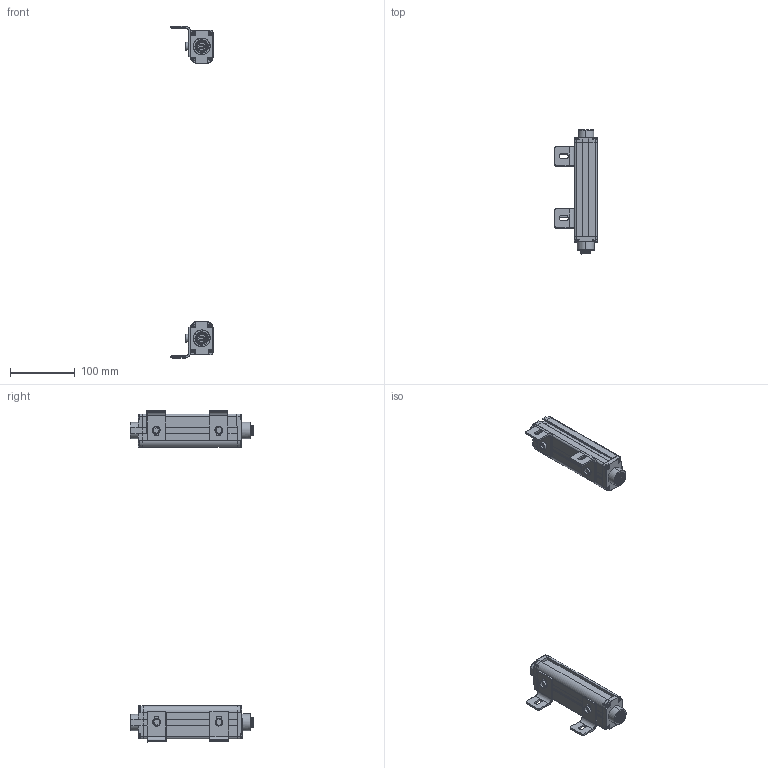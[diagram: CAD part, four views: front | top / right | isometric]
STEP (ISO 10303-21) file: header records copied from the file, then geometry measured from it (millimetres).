
FILE_DESCRIPTION (( 'STEP AP214' ), '1' );
FILE_NAME ('esn1210.STEP', '2018-03-08T12:41:19', ( '' ), ( '' ), 'SwSTEP 2.0', 'SolidWorks 2017', '' );
FILE_SCHEMA (( 'AUTOMOTIVE_DESIGN' ));
Length unit declared in the file: millimetre
Products named in the file (12): m6-ls1210; hk1210; pcb1210; lgp1210; zj1210; esndg11210; esn21210; lx1210; esndg1z1210; esndg21210; esn1210; hkct11210
Assembly tree (40 placements, depth 2):
  esn1210
    esn21210  x2
    esndg11210
    pcb1210  x2
    esndg21210  x2
    lgp1210  x2
    hkct11210  x2
    lx1210  x16
    hk1210  x4
    zj1210  x4
    m6-ls1210  x4
    esndg1z1210
Bounding box: 64.8 x 190.32 x 511.61 mm (x, y, z)
Volume: 279466.2 mm3; surface area: 205044 mm2
Topology: 40 solids, 40 shells, 2167 faces, 5731 edges, 3678 vertices
Faces by surface type: cylinder 1041, plane 706, bspline 420
Entity records: 184682 total; most frequent: CARTESIAN_POINT 166622, ORIENTED_EDGE 3902, DIRECTION 3340, EDGE_CURVE 1951, VERTEX_POINT 1248, AXIS2_PLACEMENT_3D 1197, VECTOR 946, LINE 946
